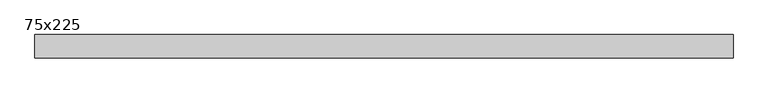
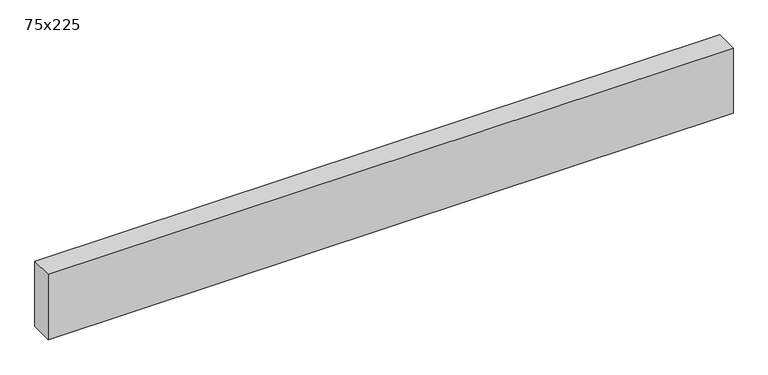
"""IFC4 building model written with IfcOpenShell, lengths in millimetres: beam geometry, Madrier : 75x225."""

from ifc_helpers import new_model, si_unit, frame, origin, place, context, project, spatial, polyline, outline, extrude, source, transform, mapped, element, save


def beam_75x225_e5a17f33(model_context):
    return source(origin(), model_context, "Body", "SweptSolid", [
        extrude(outline(polyline([(1117.5, 37.5), (1117.5, -37.5), (-1116.6827588, -37.5), (-1116.6827588, 37.5), (1117.5, 37.5)])), frame((0.0, 0.0, -112.5), z_axis=(0.0, 0.0, 1.0), x_axis=(1.0, 0.0, 0.0)), (0.0, 0.0, 1.0), 225.0),
    ])


if __name__ == "__main__":
    model = new_model("IFC4")
    model_context = context("Model", 3, world=origin())
    ifc_project = project(units=[si_unit("LENGTHUNIT", "METRE", prefix="MILLI")], contexts=[model_context])
    site = spatial("IfcSite", under=ifc_project)
    building = spatial("IfcBuilding", under=site)
    placement = place(None, origin())
    beam_75x225_shape = beam_75x225_e5a17f33(model_context)
    element("IfcBeam", 1, ObjectType="Madrier : 75x225", at=placement, inside=building, context=model_context, shape_type="MappedRepresentation", body=[
        mapped(beam_75x225_shape, transform((0.0, 0.0, 0.0), x_axis=(1.0, 0.0, 0.0), y_axis=(0.0, 1.0, 0.0), z_axis=(0.0, 0.0, 1.0))),
    ])
    save(model, "model.ifc")
